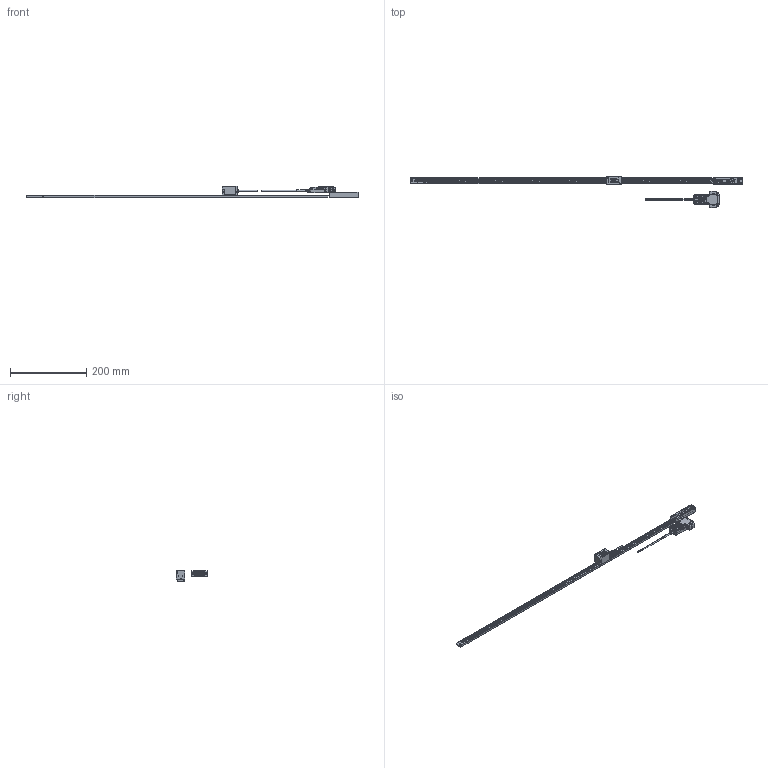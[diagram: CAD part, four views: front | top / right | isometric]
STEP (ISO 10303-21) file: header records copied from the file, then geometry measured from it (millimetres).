
FILE_DESCRIPTION(('Creo Elements/Direct Modeling STEP Export'),'2;1');
FILE_NAME('ST1300-700D.stp','2018-02-28T16:44:58',(''),(''),'Creo Elements/Direct Modeling STEP processor for AP214 (Solid Model)','Creo Elements/Direct Modeling 18.1B 29-Sep-2012 (C) Parametric Technology GmbH','');
FILE_SCHEMA(('AUTOMOTIVE_DESIGN { 1 0 10303 214 1 1 1 1 }'));
Length unit declared in the file: millimetre
Products named in the file (4): Detector_Head; Connector; Scale_700; ST1300-700D
Assembly tree (3 placements, depth 2):
  ST1300-700D
    Scale_700
    Connector
    Detector_Head
Bounding box: 873 x 83 x 30.1 mm (x, y, z)
Volume: 93409.1 mm3; surface area: 67988.8 mm2
Topology: 2 solids, 10 shells, 3532 faces, 9717 edges, 6347 vertices
Faces by surface type: plane 1687, cylinder 1584, extrusion 109, cone 99, torus 26, bspline 23, revolution 4
Entity records: 118085 total; most frequent: CARTESIAN_POINT 26969, ORIENTED_EDGE 19410, DIRECTION 18610, EDGE_CURVE 9701, VERTEX_POINT 6347, AXIS2_PLACEMENT_3D 6317, VECTOR 5970, LINE 5881
